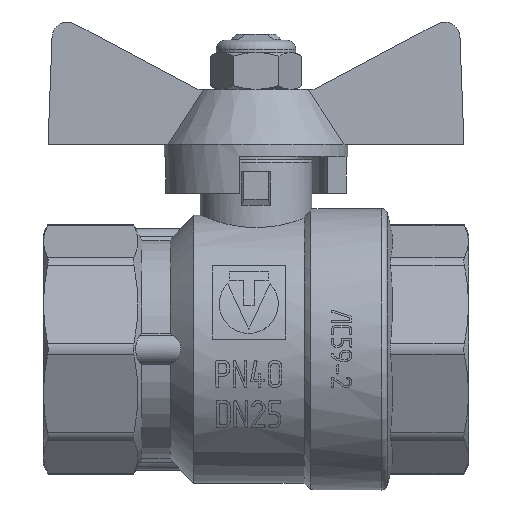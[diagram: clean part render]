
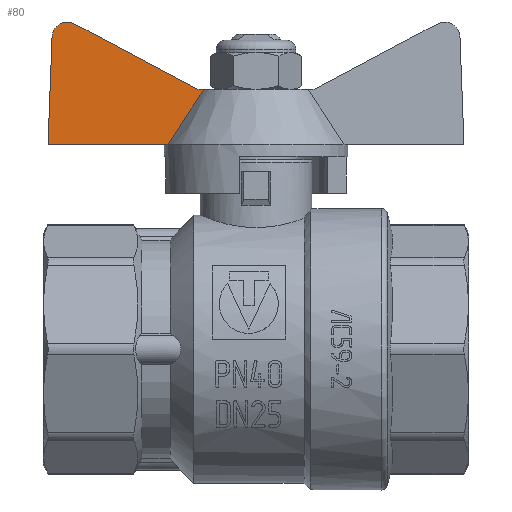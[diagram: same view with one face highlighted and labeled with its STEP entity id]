
A CAD part, top view. The second image highlights one B-rep face of the part: STEP entity #80.
In plain terms, the highlighted planar face has unit normal (-0.038, 0.037, 0.999).
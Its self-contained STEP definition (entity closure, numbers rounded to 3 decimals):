
#80=ADVANCED_FACE('',(#1085),#1087,.T.);
#1085=FACE_BOUND('',#1086,.T.);
#1086=EDGE_LOOP('',(#6558,#6559,#6560,#6561,#6562,#6563,#6564,#6565));
#1087=PLANE('',#1088);
#1088=AXIS2_PLACEMENT_3D('',#1089,#1090,#1091);
#1089=CARTESIAN_POINT('',(-34.,33.5,3.5));
#1090=DIRECTION('',(-0.038,0.037,0.999));
#1091=DIRECTION('',(0.999,0.,0.038));
#6558=ORIENTED_EDGE('',*,*,#12082,.F.);
#6559=ORIENTED_EDGE('',*,*,#12095,.T.);
#6560=ORIENTED_EDGE('',*,*,#12096,.T.);
#6561=ORIENTED_EDGE('',*,*,#12097,.T.);
#6562=ORIENTED_EDGE('',*,*,#12098,.F.);
#6563=ORIENTED_EDGE('',*,*,#12099,.T.);
#6564=ORIENTED_EDGE('',*,*,#12100,.T.);
#6565=ORIENTED_EDGE('',*,*,#12071,.T.);
#12071=EDGE_CURVE('',#14341,#14320,#14342,.T.);
#12082=EDGE_CURVE('',#14358,#14320,#14360,.F.);
#12095=EDGE_CURVE('',#14358,#14379,#14380,.F.);
#12096=EDGE_CURVE('',#14379,#14381,#14382,.F.);
#12097=EDGE_CURVE('',#14381,#14383,#14384,.T.);
#12098=EDGE_CURVE('',#14385,#14383,#14386,.T.);
#12099=EDGE_CURVE('',#14385,#14387,#14388,.T.);
#12100=EDGE_CURVE('',#14387,#14341,#14389,.F.);
#14320=VERTEX_POINT('',#18128);
#14341=VERTEX_POINT('',#18182);
#14342=LINE('',#18183,#18184);
#14358=VERTEX_POINT('',#18265);
#14360=B_SPLINE_CURVE_WITH_KNOTS('',3,
(#18270,#18271,#18272,#18273,#18274,#18275,#18276,#18277,#18278,#18279,#18280,#18281,
#18282,#18283,#18284,#18285,#18286,#18287),
.UNSPECIFIED.,.F.,.F.,
(4,1,1,1,1,1,1,1,1,1,1,1,1,1,1,4),
(0.,0.07,0.139,0.207,0.275,0.342,
0.408,0.472,0.555,0.637,0.717,
0.775,0.833,0.889,0.945,1.),
.UNSPECIFIED.);
#14379=VERTEX_POINT('',#18600);
#14380=LINE('',#18601,#18602);
#14381=VERTEX_POINT('',#18604);
#14382=LINE('',#18605,#18606);
#14383=VERTEX_POINT('',#18608);
#14384=(BOUNDED_CURVE()B_SPLINE_CURVE(3,
(#18609,#18610,#18611,#18612),
.UNSPECIFIED.,.F.,.F.)B_SPLINE_CURVE_WITH_KNOTS((4,4),
(0.,1.),
.UNSPECIFIED.)CURVE()GEOMETRIC_REPRESENTATION_ITEM()RATIONAL_B_SPLINE_CURVE((1.,
0.985,0.985,1.))REPRESENTATION_ITEM(''));
#14385=VERTEX_POINT('',#18613);
#14386=LINE('',#18614,#18615);
#14387=VERTEX_POINT('',#18617);
#14388=(BOUNDED_CURVE()B_SPLINE_CURVE(3,
(#18618,#18619,#18620,#18621),
.UNSPECIFIED.,.F.,.F.)B_SPLINE_CURVE_WITH_KNOTS((4,4),
(0.,1.),
.UNSPECIFIED.)CURVE()GEOMETRIC_REPRESENTATION_ITEM()RATIONAL_B_SPLINE_CURVE((1.,
0.827,0.827,1.))REPRESENTATION_ITEM(''));
#14389=LINE('',#18622,#18623);
#18128=CARTESIAN_POINT('',(-14.385,33.5,4.25));
#18182=CARTESIAN_POINT('',(-34.,33.5,3.5));
#18183=CARTESIAN_POINT('',(-34.,33.5,3.5));
#18184=VECTOR('',#18185,1.);
#18185=DIRECTION('',(0.999,0.,0.038));
#18265=CARTESIAN_POINT('',(-8.551,42.5,4.138));
#18270=CARTESIAN_POINT('',(-14.385,33.5,4.25));
#18271=CARTESIAN_POINT('',(-14.252,33.711,4.247));
#18272=CARTESIAN_POINT('',(-13.986,34.13,4.242));
#18273=CARTESIAN_POINT('',(-13.588,34.756,4.234));
#18274=CARTESIAN_POINT('',(-13.194,35.375,4.226));
#18275=CARTESIAN_POINT('',(-12.803,35.988,4.218));
#18276=CARTESIAN_POINT('',(-12.418,36.59,4.21));
#18277=CARTESIAN_POINT('',(-12.037,37.182,4.203));
#18278=CARTESIAN_POINT('',(-11.625,37.823,4.195));
#18279=CARTESIAN_POINT('',(-11.18,38.512,4.186));
#18280=CARTESIAN_POINT('',(-10.702,39.247,4.177));
#18281=CARTESIAN_POINT('',(-10.272,39.905,4.169));
#18282=CARTESIAN_POINT('',(-9.889,40.49,4.162));
#18283=CARTESIAN_POINT('',(-9.551,41.002,4.156));
#18284=CARTESIAN_POINT('',(-9.215,41.508,4.15));
#18285=CARTESIAN_POINT('',(-8.883,42.006,4.144));
#18286=CARTESIAN_POINT('',(-8.662,42.336,4.14));
#18287=CARTESIAN_POINT('',(-8.551,42.5,4.138));
#18600=CARTESIAN_POINT('',(-9.5,42.5,4.102));
#18601=CARTESIAN_POINT('',(-9.5,42.5,4.102));
#18602=VECTOR('',#18603,1.);
#18603=DIRECTION('',(0.999,0.,0.038));
#18604=CARTESIAN_POINT('',(-29.769,53.256,2.926));
#18605=CARTESIAN_POINT('',(-29.769,53.256,2.926));
#18606=VECTOR('',#18607,1.);
#18607=DIRECTION('',(0.882,-0.468,0.051));
#18608=CARTESIAN_POINT('',(-30.797,53.5,2.878));
#18609=CARTESIAN_POINT('',(-29.769,53.256,2.926));
#18610=CARTESIAN_POINT('',(-30.091,53.41,2.908));
#18611=CARTESIAN_POINT('',(-30.44,53.493,2.892));
#18612=CARTESIAN_POINT('',(-30.797,53.5,2.878));
#18613=CARTESIAN_POINT('',(-30.897,53.5,2.874));
#18614=CARTESIAN_POINT('',(-30.897,53.5,2.874));
#18615=VECTOR('',#18616,1.);
#18616=DIRECTION('',(0.999,0.,0.038));
#18617=CARTESIAN_POINT('',(-33.34,51.192,2.867));
#18618=CARTESIAN_POINT('',(-30.897,53.5,2.874));
#18619=CARTESIAN_POINT('',(-32.251,53.473,2.823));
#18620=CARTESIAN_POINT('',(-33.236,52.543,2.82));
#18621=CARTESIAN_POINT('',(-33.34,51.192,2.867));
#18622=CARTESIAN_POINT('',(-34.,33.5,3.5));
#18623=VECTOR('',#18624,1.);
#18624=DIRECTION('',(0.037,0.999,-0.036));
